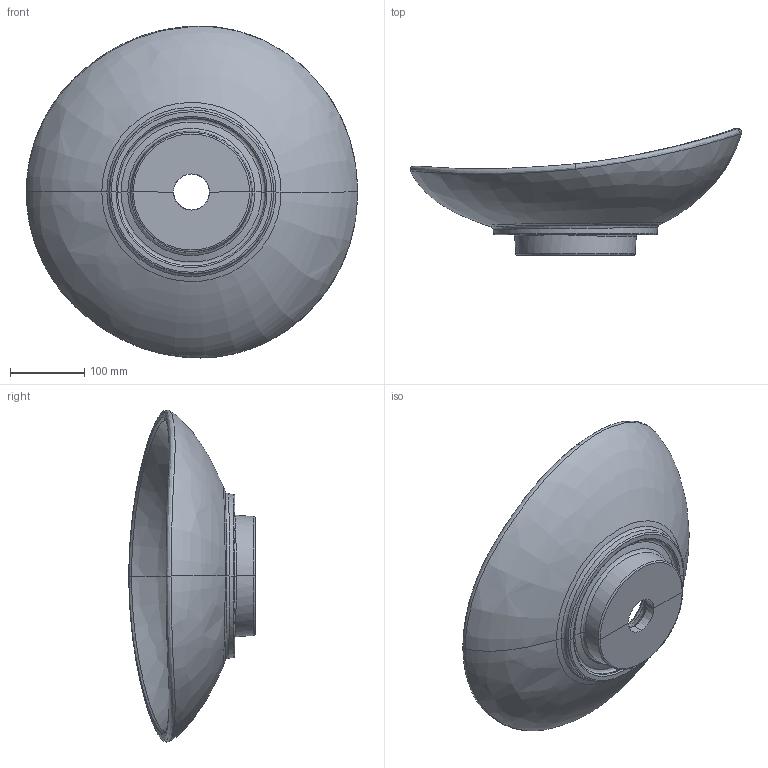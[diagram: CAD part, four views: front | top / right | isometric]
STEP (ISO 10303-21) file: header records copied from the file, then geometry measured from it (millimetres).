
FILE_DESCRIPTION(/* description */ (''),/* implementation_level */ '2;1');
FILE_NAME(/* name */ '4110-45_Sollprodukt.stp',/* time_stamp */ '2013-01-28T10:33:02+01:00',/* author */ (''),/* organization */ (''),/* preprocessor_version */ 'ST-DEVELOPER v11',/* originating_system */ 'SIEMENS PLM Software NX 7.5',/* authorisation */ '');
FILE_SCHEMA (('AUTOMOTIVE_DESIGN { 1 0 10303 214 1 1 1 1 }'));
Length unit declared in the file: millimetre
Products named in the file (1): brau220Ebwv5
Bounding box: 445.51 x 169.98 x 446.46 mm (x, y, z)
Volume: 3181650.9 mm3; surface area: 456030.8 mm2
Topology: 1 solids, 2 shells, 90 faces, 193 edges, 101 vertices
Faces by surface type: bspline 76, cone 8, extrusion 6
Entity records: 14189 total; most frequent: CARTESIAN_POINT 12867, ORIENTED_EDGE 382, EDGE_CURVE 191, B_SPLINE_CURVE_WITH_KNOTS 166, VERTEX_POINT 101, ADVANCED_FACE 90, FACE_OUTER_BOUND 90, EDGE_LOOP 90
